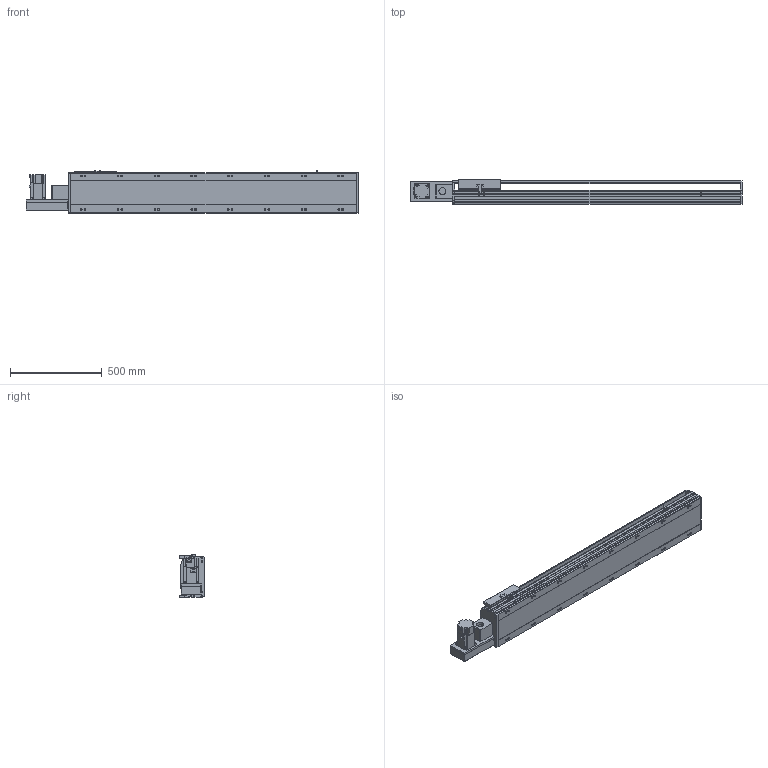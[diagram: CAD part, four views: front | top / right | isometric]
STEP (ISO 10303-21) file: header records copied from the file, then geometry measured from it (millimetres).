
FILE_DESCRIPTION(/* description */ ('STEP AP214'),/* implementation_level */ '2;1');
FILE_NAME(/* name */ 'PBS220-P40-S1200-L-T75-C1-N(0)',/* time_stamp */ '2022-06-11T09:55:56+02:00',/* author */ ('License CC BY-ND 4.0'),/* organization */ ('CADENAS'),/* preprocessor_version */ 'ST-DEVELOPER v18.102',/* originating_system */ 'PARTsolutions',/* authorisation */ ' ');
FILE_SCHEMA (('AUTOMOTIVE_DESIGN {1 0 10303 214 3 1 1}'));
Length unit declared in the file: millimetre
Products named in the file (7): PBS220-P40-S1200-L-T75-C1-N(0); PBS220_sensor; PBS220_plant; PBS220_sliser; T75-p1; PBS220T-L_motors; PBS220-S1200()_body
Assembly tree (8 placements, depth 2):
  PBS220-P40-S1200-L-T75-C1-N(0)
    PBS220_sensor  x3
    PBS220_plant
    PBS220_sliser
    T75-p1
    PBS220T-L_motors
    PBS220-S1200()_body
Bounding box: 1806 x 134 x 238.5 mm (x, y, z)
Volume: 24155703.8 mm3; surface area: 2327982.5 mm2
Topology: 8 solids, 8 shells, 914 faces, 2396 edges, 1558 vertices
Faces by surface type: plane 598, cylinder 276, cone 40
Full cylindrical faces by diameter (mm): 2.013 x4, 4.5 x14, 4.917 x4, 6 x7, 6.647 x8, 8 x10, 8.376 x16, 8.5 x16, 10 x6, 14 x16, 38 x2, 40 x1, 70 x1
Entity records: 25629 total; most frequent: CARTESIAN_POINT 4492, DIRECTION 4455, ORIENTED_EDGE 4106, EDGE_CURVE 2053, AXIS2_PLACEMENT_3D 1555, VERTEX_POINT 1416, LINE 1345, VECTOR 1345
